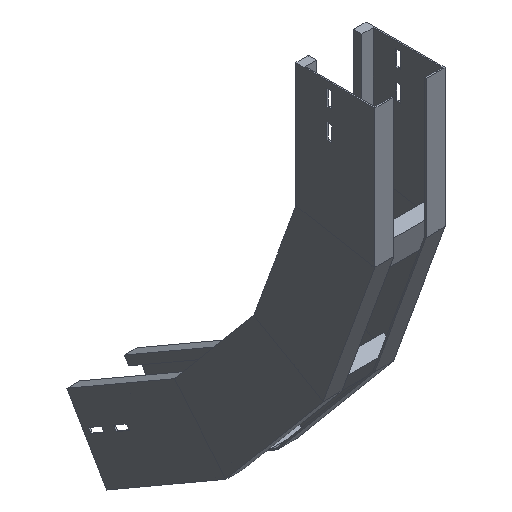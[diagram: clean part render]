
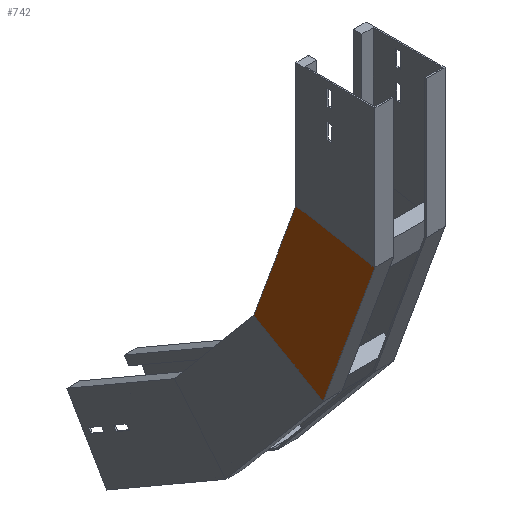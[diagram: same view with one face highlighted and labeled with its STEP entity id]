
A CAD part, isometric view. The second image highlights one B-rep face of the part: STEP entity #742.
In plain terms, the highlighted planar face has unit normal (-1, 0, 0) as drawn and (1, 0, 0) by its records, which use the part's own axes.
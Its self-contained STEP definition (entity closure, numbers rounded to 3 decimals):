
#12 = DIRECTION ( 'NONE',  ( 0., 0.643, -0.766 ) ) ;
#18 = DIRECTION ( 'NONE',  ( -1., 0., 0. ) ) ;
#23 = CARTESIAN_POINT ( 'NONE',  ( 0., 106.113, -380.393 ) ) ;
#107 = VERTEX_POINT ( 'NONE', #662 ) ;
#183 = LINE ( 'NONE', #429, #1135 ) ;
#253 = VERTEX_POINT ( 'NONE', #1131 ) ;
#270 = VERTEX_POINT ( 'NONE', #1664 ) ;
#288 = VERTEX_POINT ( 'NONE', #379 ) ;
#297 = CARTESIAN_POINT ( 'NONE',  ( 0., 236.28, -535.52 ) ) ;
#379 = CARTESIAN_POINT ( 'NONE',  ( 0., 285.655, -476.677 ) ) ;
#429 = CARTESIAN_POINT ( 'NONE',  ( 0., 159.885, -326.79 ) ) ;
#432 = EDGE_CURVE ( 'NONE', #107, #270, #809, .T. ) ;
#516 = EDGE_CURVE ( 'NONE', #107, #288, #183, .T. ) ;
#535 = CARTESIAN_POINT ( 'NONE',  ( 0., 73.705, -399.104 ) ) ;
#549 = CARTESIAN_POINT ( 'NONE',  ( 0., 73.705, -399.104 ) ) ;
#662 = CARTESIAN_POINT ( 'NONE',  ( 0., 172.636, -341.986 ) ) ;
#742 = ADVANCED_FACE ( 'NONE', ( #1199 ), #804, .F. ) ;
#743 = ORIENTED_EDGE ( 'NONE', *, *, #432, .T. ) ;
#782 = EDGE_CURVE ( 'NONE', #270, #253, #794, .T. ) ;
#794 = LINE ( 'NONE', #549, #1658 ) ;
#802 = ORIENTED_EDGE ( 'NONE', *, *, #516, .F. ) ;
#804 = PLANE ( 'NONE',  #1244 ) ;
#809 = LINE ( 'NONE', #23, #864 ) ;
#811 = EDGE_CURVE ( 'NONE', #288, #253, #1471, .T. ) ;
#814 = DIRECTION ( 'NONE',  ( 0., 0., 1. ) ) ;
#864 = VECTOR ( 'NONE', #1558, 1000. ) ;
#956 = DIRECTION ( 'NONE',  ( 0., 0.643, -0.766 ) ) ;
#991 = ORIENTED_EDGE ( 'NONE', *, *, #782, .T. ) ;
#1001 = EDGE_LOOP ( 'NONE', ( #802, #743, #991, #1003 ) ) ;
#1003 = ORIENTED_EDGE ( 'NONE', *, *, #811, .F. ) ;
#1059 = DIRECTION ( 'NONE',  ( 0., -0.643, -0.766 ) ) ;
#1131 = CARTESIAN_POINT ( 'NONE',  ( 0., 212.226, -564.186 ) ) ;
#1135 = VECTOR ( 'NONE', #956, 1000. ) ;
#1199 = FACE_OUTER_BOUND ( 'NONE', #1001, .T. ) ;
#1243 = VECTOR ( 'NONE', #1059, 1000. ) ;
#1244 = AXIS2_PLACEMENT_3D ( 'NONE', #535, #18, #814 ) ;
#1471 = LINE ( 'NONE', #297, #1243 ) ;
#1558 = DIRECTION ( 'NONE',  ( 0., -0.866, -0.5 ) ) ;
#1658 = VECTOR ( 'NONE', #12, 1000. ) ;
#1664 = CARTESIAN_POINT ( 'NONE',  ( 0., 73.705, -399.104 ) ) ;
